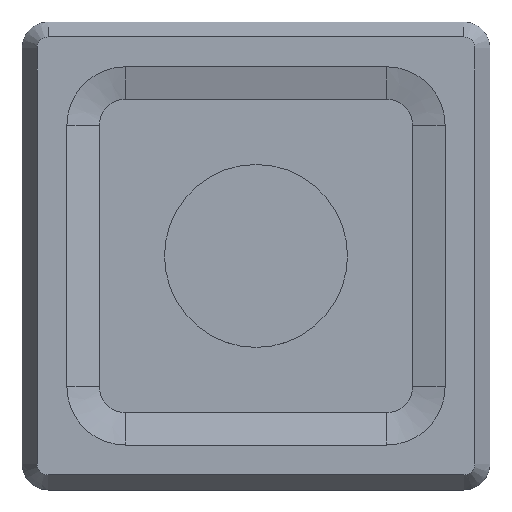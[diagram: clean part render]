
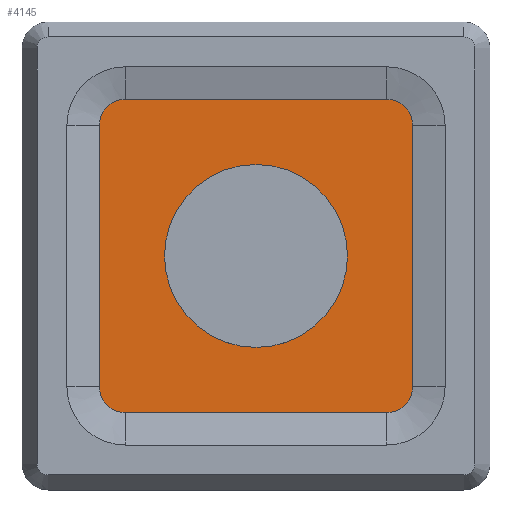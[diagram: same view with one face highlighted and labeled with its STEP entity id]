
A CAD part, top view. The second image highlights one B-rep face of the part: STEP entity #4145.
In plain terms, the highlighted planar face has unit normal (0, 0, 1).
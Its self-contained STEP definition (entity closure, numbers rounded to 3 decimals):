
#3733=CARTESIAN_POINT('Vertex',(7.038,0.,3.951)) ;
#3738=CARTESIAN_POINT('Axis2P3D Location',(0.,0.,3.951)) ;
#3742=CARTESIAN_POINT('Vertex',(-7.038,0.,3.951)) ;
#3764=CARTESIAN_POINT('Axis2P3D Location',(0.,0.,3.951)) ;
#3943=CARTESIAN_POINT('Vertex',(-11.5,-13.5,3.951)) ;
#3946=CARTESIAN_POINT('Axis2P3D Location',(-11.5,-11.5,3.951)) ;
#3950=CARTESIAN_POINT('Vertex',(-13.5,-11.5,3.951)) ;
#3970=CARTESIAN_POINT('Line Origine',(-13.5,0.,3.951)) ;
#3974=CARTESIAN_POINT('Vertex',(-13.5,11.5,3.951)) ;
#3998=CARTESIAN_POINT('Vertex',(11.5,-13.5,3.951)) ;
#4001=CARTESIAN_POINT('Line Origine',(0.,-13.5,3.951)) ;
#4018=CARTESIAN_POINT('Axis2P3D Location',(-11.5,11.5,3.951)) ;
#4022=CARTESIAN_POINT('Vertex',(-11.5,13.5,3.951)) ;
#4042=CARTESIAN_POINT('Line Origine',(0.,13.5,3.951)) ;
#4046=CARTESIAN_POINT('Vertex',(11.5,13.5,3.951)) ;
#4066=CARTESIAN_POINT('Axis2P3D Location',(11.5,11.5,3.951)) ;
#4070=CARTESIAN_POINT('Vertex',(13.5,11.5,3.951)) ;
#4090=CARTESIAN_POINT('Line Origine',(13.5,0.,3.951)) ;
#4094=CARTESIAN_POINT('Vertex',(13.5,-11.5,3.951)) ;
#4114=CARTESIAN_POINT('Axis2P3D Location',(11.5,-11.5,3.951)) ;
#4126=CARTESIAN_POINT('Axis2P3D Location',(0.,0.,3.951)) ;
#3739=DIRECTION('Axis2P3D Direction',(0.,0.,1.)) ;
#3765=DIRECTION('Axis2P3D Direction',(0.,0.,1.)) ;
#3947=DIRECTION('Axis2P3D Direction',(0.,0.,-1.)) ;
#3971=DIRECTION('Vector Direction',(0.,-1.,0.)) ;
#4002=DIRECTION('Vector Direction',(1.,0.,0.)) ;
#4019=DIRECTION('Axis2P3D Direction',(0.,0.,-1.)) ;
#4043=DIRECTION('Vector Direction',(-1.,0.,0.)) ;
#4067=DIRECTION('Axis2P3D Direction',(0.,0.,-1.)) ;
#4091=DIRECTION('Vector Direction',(0.,1.,0.)) ;
#4115=DIRECTION('Axis2P3D Direction',(0.,0.,-1.)) ;
#4127=DIRECTION('Axis2P3D Direction',(0.,0.,-1.)) ;
#4128=DIRECTION('Axis2P3D XDirection',(1.,0.,0.)) ;
#3740=AXIS2_PLACEMENT_3D('Circle Axis2P3D',#3738,#3739,$) ;
#3766=AXIS2_PLACEMENT_3D('Circle Axis2P3D',#3764,#3765,$) ;
#3948=AXIS2_PLACEMENT_3D('Circle Axis2P3D',#3946,#3947,$) ;
#4020=AXIS2_PLACEMENT_3D('Circle Axis2P3D',#4018,#4019,$) ;
#4068=AXIS2_PLACEMENT_3D('Circle Axis2P3D',#4066,#4067,$) ;
#4116=AXIS2_PLACEMENT_3D('Circle Axis2P3D',#4114,#4115,$) ;
#4129=AXIS2_PLACEMENT_3D('Plane Axis2P3D',#4126,#4127,#4128) ;
#4132=ORIENTED_EDGE('',*,*,#3952,.F.) ;
#4133=ORIENTED_EDGE('',*,*,#4005,.F.) ;
#4134=ORIENTED_EDGE('',*,*,#4118,.F.) ;
#4135=ORIENTED_EDGE('',*,*,#4096,.F.) ;
#4136=ORIENTED_EDGE('',*,*,#4072,.F.) ;
#4137=ORIENTED_EDGE('',*,*,#4048,.F.) ;
#4138=ORIENTED_EDGE('',*,*,#4024,.F.) ;
#4139=ORIENTED_EDGE('',*,*,#3976,.F.) ;
#4142=ORIENTED_EDGE('',*,*,#3768,.F.) ;
#4143=ORIENTED_EDGE('',*,*,#3744,.F.) ;
#4144=FACE_BOUND('',#4141,.T.) ;
#3972=VECTOR('Line Direction',#3971,1.) ;
#4003=VECTOR('Line Direction',#4002,1.) ;
#4044=VECTOR('Line Direction',#4043,1.) ;
#4092=VECTOR('Line Direction',#4091,1.) ;
#4145=ADVANCED_FACE('Body.2',(#4140,#4144),#4130,.F.) ;
#3741=CIRCLE('generated circle',#3740,7.038) ;
#3767=CIRCLE('generated circle',#3766,7.038) ;
#3949=CIRCLE('generated circle',#3948,2.) ;
#4021=CIRCLE('generated circle',#4020,2.) ;
#4069=CIRCLE('generated circle',#4068,2.) ;
#4117=CIRCLE('generated circle',#4116,2.) ;
#3744=EDGE_CURVE('',#3734,#3743,#3741,.T.) ;
#3768=EDGE_CURVE('',#3743,#3734,#3767,.T.) ;
#3952=EDGE_CURVE('',#3944,#3951,#3949,.T.) ;
#3976=EDGE_CURVE('',#3951,#3975,#3973,.F.) ;
#4005=EDGE_CURVE('',#3999,#3944,#4004,.F.) ;
#4024=EDGE_CURVE('',#3975,#4023,#4021,.T.) ;
#4048=EDGE_CURVE('',#4023,#4047,#4045,.F.) ;
#4072=EDGE_CURVE('',#4047,#4071,#4069,.T.) ;
#4096=EDGE_CURVE('',#4071,#4095,#4093,.F.) ;
#4118=EDGE_CURVE('',#4095,#3999,#4117,.T.) ;
#4131=EDGE_LOOP('',(#4132,#4133,#4134,#4135,#4136,#4137,#4138,#4139)) ;
#4141=EDGE_LOOP('',(#4142,#4143)) ;
#4140=FACE_OUTER_BOUND('',#4131,.T.) ;
#3973=LINE('Line',#3970,#3972) ;
#4004=LINE('Line',#4001,#4003) ;
#4045=LINE('Line',#4042,#4044) ;
#4093=LINE('Line',#4090,#4092) ;
#4130=PLANE('',#4129) ;
#3734=VERTEX_POINT('',#3733) ;
#3743=VERTEX_POINT('',#3742) ;
#3944=VERTEX_POINT('',#3943) ;
#3951=VERTEX_POINT('',#3950) ;
#3975=VERTEX_POINT('',#3974) ;
#3999=VERTEX_POINT('',#3998) ;
#4023=VERTEX_POINT('',#4022) ;
#4047=VERTEX_POINT('',#4046) ;
#4071=VERTEX_POINT('',#4070) ;
#4095=VERTEX_POINT('',#4094) ;
